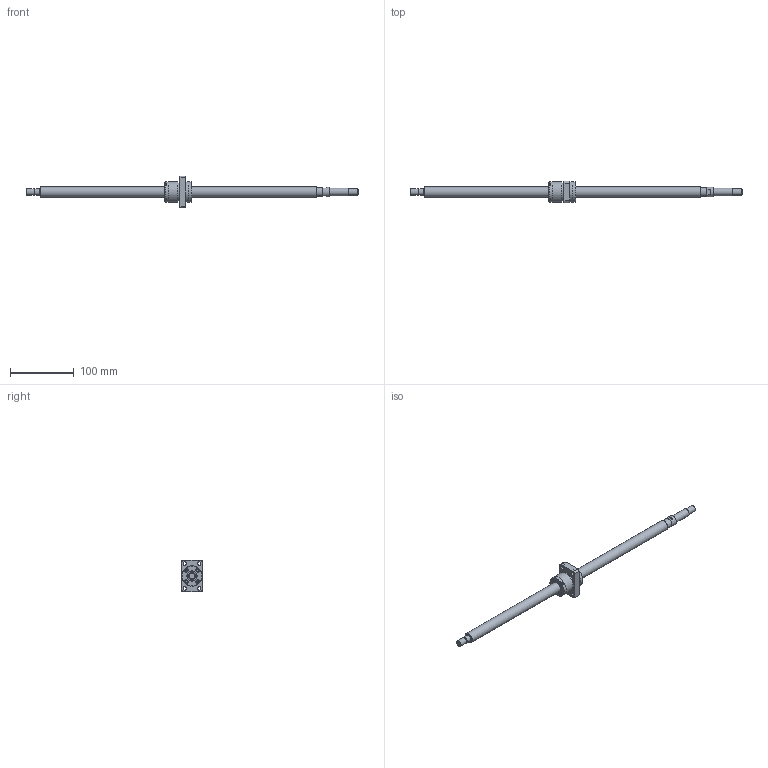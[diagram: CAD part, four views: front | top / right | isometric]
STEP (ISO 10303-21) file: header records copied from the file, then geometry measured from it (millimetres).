
FILE_DESCRIPTION(/* description */ ('STEP AP203'),/* implementation_level */ '2;1');
FILE_NAME(/* name */ 'BNK1616-3.6G0+521LC5Y(2380)',/* time_stamp */ '2024-07-02T10:06:51+02:00',/* author */ ('License CC BY-ND 4.0'),/* organization */ ('CADENAS'),/* preprocessor_version */ 'ST-DEVELOPER v19.3',/* originating_system */ 'PARTsolutions',/* authorisation */ ' ');
FILE_SCHEMA (('CONFIG_CONTROL_DESIGN'));
Length unit declared in the file: millimetre
Products named in the file (3): BNK1616-3.6G0+521LC5Y(2380); BNK 1616-3.6G0+521LC5Y Shaft; BNK 1616-3.6G0+521LC5Y0 Nut
Assembly tree (2 placements, depth 2):
  BNK1616-3.6G0+521LC5Y(2380)
    BNK 1616-3.6G0+521LC5Y Shaft
    BNK 1616-3.6G0+521LC5Y0 Nut
Bounding box: 521 x 34 x 50 mm (x, y, z)
Volume: 128078.7 mm3; surface area: 36803.9 mm2
Topology: 2 solids, 2 shells, 136 faces, 312 edges, 202 vertices
Faces by surface type: plane 75, cylinder 35, cone 20, torus 6
Full cylindrical faces by diameter (mm): 5.188 x1, 5.5 x8, 9.5 x4, 9.6 x1, 10 x3, 12 x1, 14 x1, 15 x1, 16 x2, 28.8 x1, 31.8 x2, 32 x2
Entity records: 3705 total; most frequent: CARTESIAN_POINT 676, DIRECTION 626, ORIENTED_EDGE 530, EDGE_CURVE 265, AXIS2_PLACEMENT_3D 247, FACE_BOUND 210, EDGE_LOOP 209, VERTEX_POINT 197
